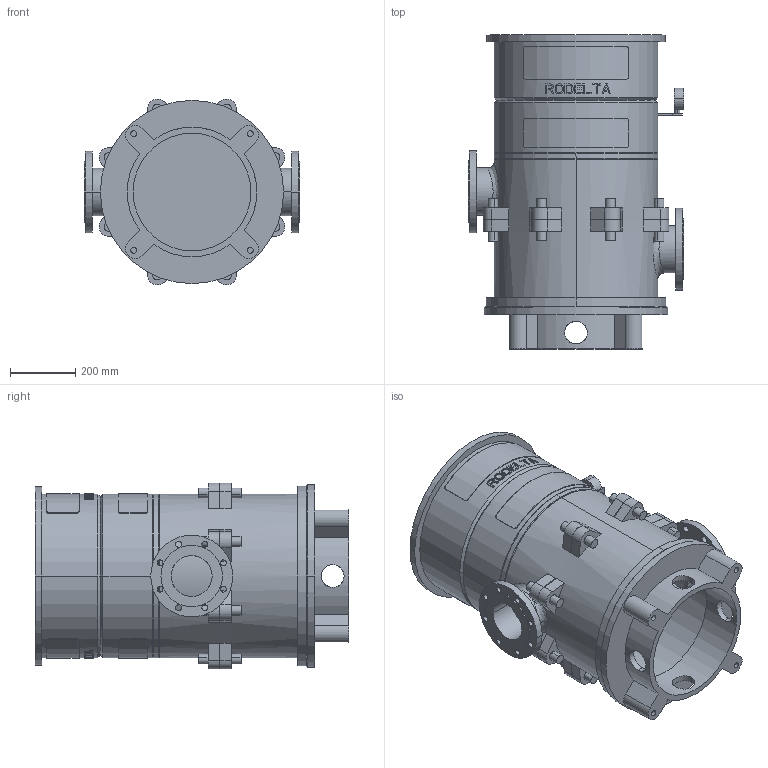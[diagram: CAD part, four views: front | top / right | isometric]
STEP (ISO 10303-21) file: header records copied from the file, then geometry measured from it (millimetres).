
FILE_DESCRIPTION((''),'2;1');
FILE_NAME('LS5_1TR_0GR_ABOVE_30KW','2023-08-08T',('Lyritlocal'),(''),'PRO/ENGINEER BY PARAMETRIC TECHNOLOGY CORPORATION, 2016360','PRO/ENGINEER BY PARAMETRIC TECHNOLOGY CORPORATION, 2016360','');
FILE_SCHEMA(('CONFIG_CONTROL_DESIGN'));
Length unit declared in the file: millimetre
Products named in the file (1): LS5_1TR_0GR_ABOVE_30KW
Bounding box: 660 x 960 x 568.08 mm (x, y, z)
Volume: 33717109.2 mm3; surface area: 4550025.6 mm2
Topology: 3 solids, 7 shells, 672 faces, 1747 edges, 1158 vertices
Faces by surface type: plane 414, cylinder 242, cone 12, bspline 4
Entity records: 22090 total; most frequent: CARTESIAN_POINT 5646, ORIENTED_EDGE 3478, DIRECTION 3269, EDGE_CURVE 1747, AXIS2_PLACEMENT_3D 1241, VERTEX_POINT 1158, EDGE_LOOP 809, VECTOR 787
